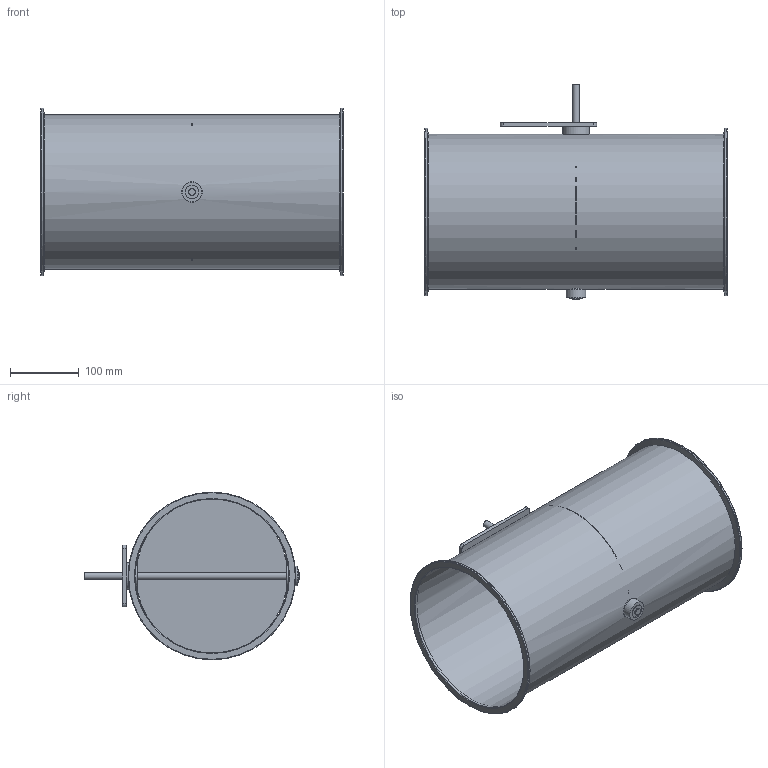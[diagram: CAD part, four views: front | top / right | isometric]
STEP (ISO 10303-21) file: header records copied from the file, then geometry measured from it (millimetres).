
FILE_DESCRIPTION(/* description */ (''),/* implementation_level */ '2;1');
FILE_NAME(/* name */ 'EA102-80B__224_L440_Belimo_Typ_NM.stp',/* time_stamp */ '2017-12-06T14:45:33+01:00',/* author */ (''),/* organization */ (''),/* preprocessor_version */ 'ST-DEVELOPER v11',/* originating_system */ 'SIEMENS UGS NX 6.0',/* authorisation */ '');
FILE_SCHEMA (('CONFIG_CONTROL_DESIGN'));
Length unit declared in the file: millimetre
Products named in the file (1): gars18E2j28e
Bounding box: 440 x 314 x 244 mm (x, y, z)
Volume: 461136.8 mm3; surface area: 774204.4 mm2
Topology: 8 solids, 8 shells, 60 faces, 126 edges, 84 vertices
Faces by surface type: cylinder 28, plane 24, torus 6, cone 2
Full cylindrical faces by diameter (mm): 4.1 x4, 10 x3, 19 x3, 19.85 x2, 20 x2, 29 x1, 30 x2, 39 x1, 224 x1, 225.6 x1, 244 x2
Entity records: 1568 total; most frequent: CARTESIAN_POINT 289, DIRECTION 262, ORIENTED_EDGE 172, AXIS2_PLACEMENT_3D 119, EDGE_LOOP 116, FACE_BOUND 102, EDGE_CURVE 86, VERTEX_POINT 74
